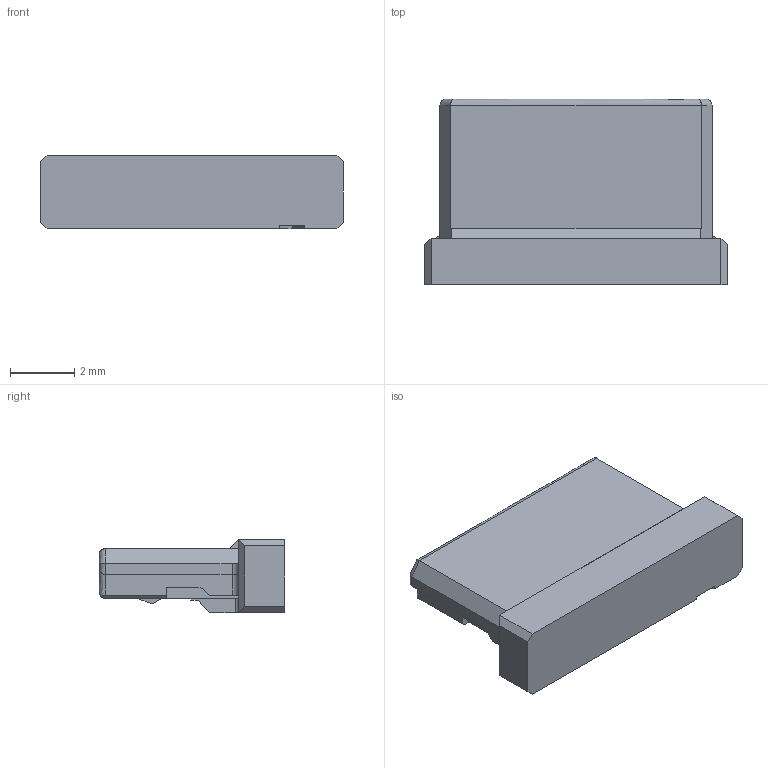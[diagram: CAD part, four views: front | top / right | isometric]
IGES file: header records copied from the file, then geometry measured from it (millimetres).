
Start section: Elysium IGES Interface
Global section: file name: T:\3D_USER\3D_(‹¤’Ê)NCW‹Z\3D _WEBŒöŠJ—p_“o˜^‘Ò‚¿\DF14\DF14-#S-1.25C\DF14-6S-1.25C.igs; native system: CoCreate Modeling 17.0  01-Apr-2010; preprocessor: CoCreate IGES_3D V2.2; author: Unknown; organization: Unknown; date: 20100921.094128; units: millimetre
Bounding box: 9.45 x 5.8 x 2.3 mm (x, y, z)
Volume: 88.2 mm3; surface area: 163.7 mm2
Topology: 1 solids, 1 shells, 115 faces, 315 edges, 204 vertices
Faces by surface type: bspline 115
